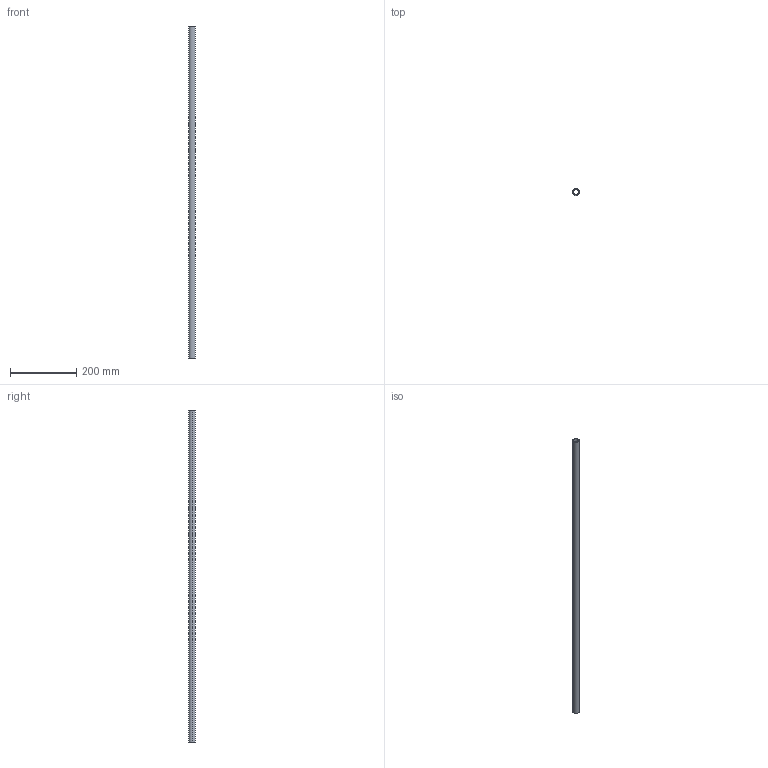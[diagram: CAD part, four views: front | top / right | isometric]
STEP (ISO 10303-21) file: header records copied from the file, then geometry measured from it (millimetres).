
FILE_DESCRIPTION (( 'STEP AP214' ), '1' );
FILE_NAME ('PAT20-1000.STEP', '2022-12-02T09:05:12', ( '' ), ( '' ), 'SwSTEP 2.0', 'SolidWorks 2018', '' );
FILE_SCHEMA (( 'AUTOMOTIVE_DESIGN' ));
Length unit declared in the file: millimetre
Products named in the file (1): PAT20-1000
Bounding box: 20 x 20 x 1000 mm (x, y, z)
Volume: 113097.3 mm3; surface area: 113323.5 mm2
Topology: 1 solids, 1 shells, 6 faces, 12 edges, 8 vertices
Faces by surface type: cylinder 4, plane 2
Entity records: 202 total; most frequent: DIRECTION 34, CARTESIAN_POINT 27, ORIENTED_EDGE 24, AXIS2_PLACEMENT_3D 15, EDGE_CURVE 12, CIRCLE 8, EDGE_LOOP 8, VERTEX_POINT 8
